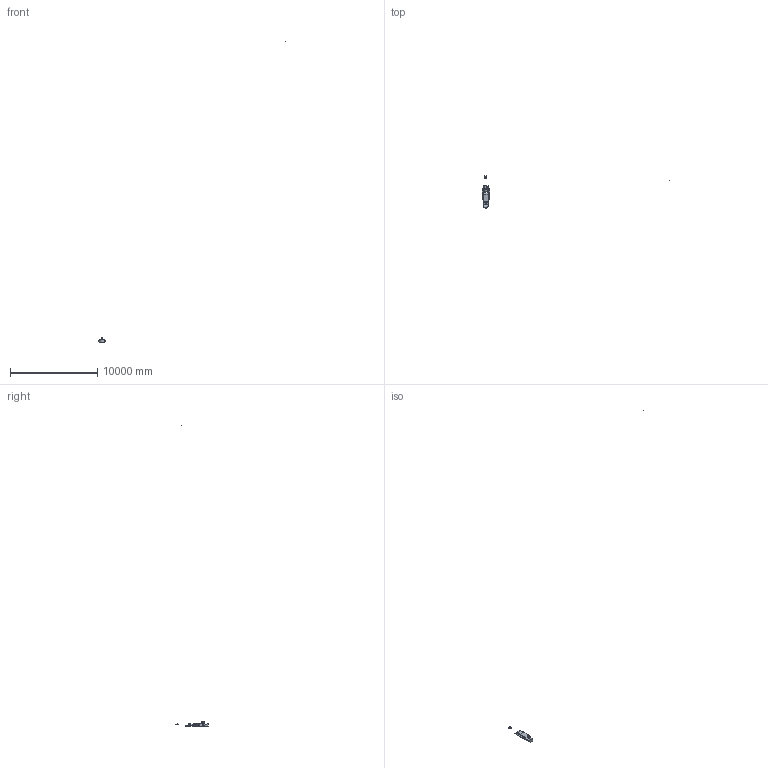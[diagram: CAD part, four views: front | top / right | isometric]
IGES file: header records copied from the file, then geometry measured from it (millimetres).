
Bounding box: 21570.56 x 3682.49 x 34572.02 mm (x, y, z)
Surface area: 6577224.1 mm2 (no closed solid volume)
Topology: 0 solids, 0 shells, 875 faces, 5861 edges, 5896 vertices
Faces by surface type: bspline 875
